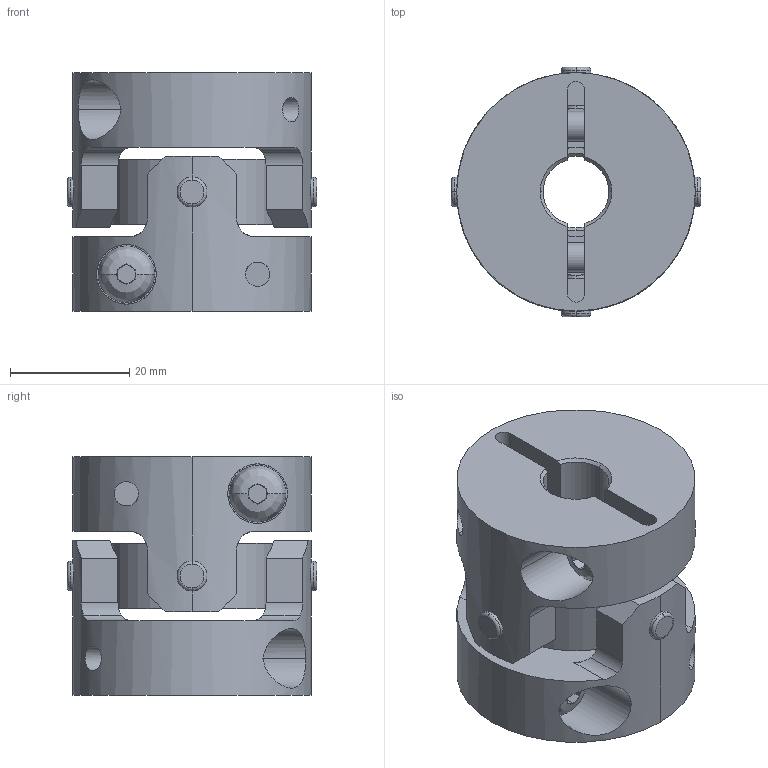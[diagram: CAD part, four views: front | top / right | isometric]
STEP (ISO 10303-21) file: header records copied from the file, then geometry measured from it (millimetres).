
FILE_DESCRIPTION((''),'2;1');
FILE_NAME('UA-40C-11×12.stp','2013-05-22T09:33:47',(''),(''),'AutoCAD STEP 2000i','AutoCAD 2000i',', , ');
FILE_SCHEMA(('CONFIG_CONTROL_DESIGN'));
Length unit declared in the file: millimetre
Products named in the file (6): UA-40C-8×8; 忣兜1; UA-4002-D08-1; BTN-M5; UA-4002-D08; UA40-SEN
Assembly tree (6 placements, depth 3):
  UA-40C-8×8
    忣兜1
    UA-4002-D08-1
      BTN-M5
    UA-4002-D08
      BTN-M5
    UA40-SEN
Bounding box: 41.81 x 41.81 x 40 mm (x, y, z)
Volume: 34135.1 mm3; surface area: 15604.1 mm2
Topology: 1 solids, 1 shells, 250 faces, 646 edges, 408 vertices
Faces by surface type: plane 122, cylinder 96, cone 16, bspline 8, torus 8
Entity records: 9627 total; most frequent: CARTESIAN_POINT 3371, ORIENTED_EDGE 1292, DIRECTION 1288, EDGE_CURVE 646, AXIS2_PLACEMENT_3D 497, VERTEX_POINT 408, VECTOR 294, LINE 294
